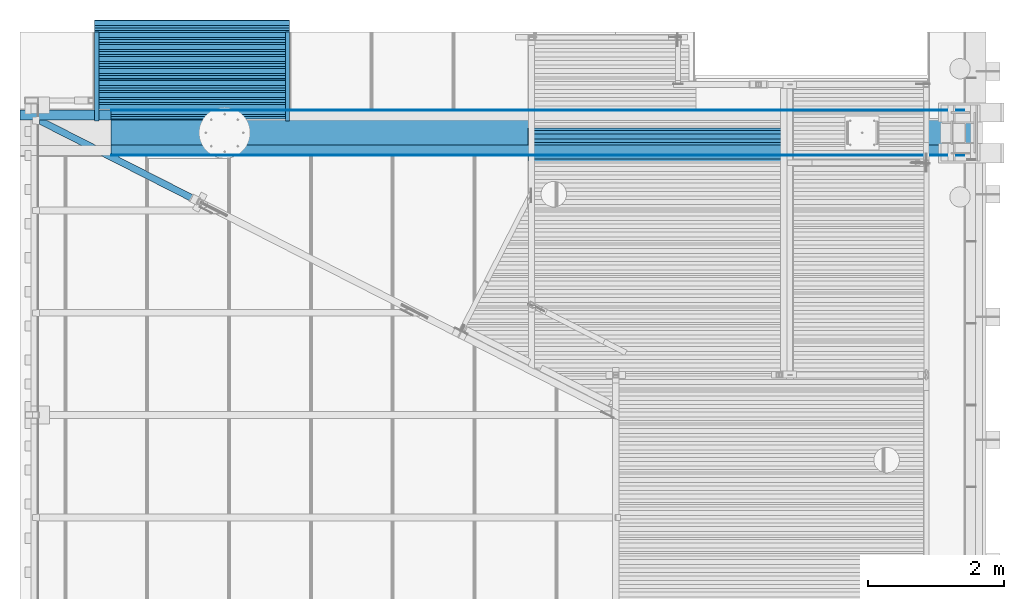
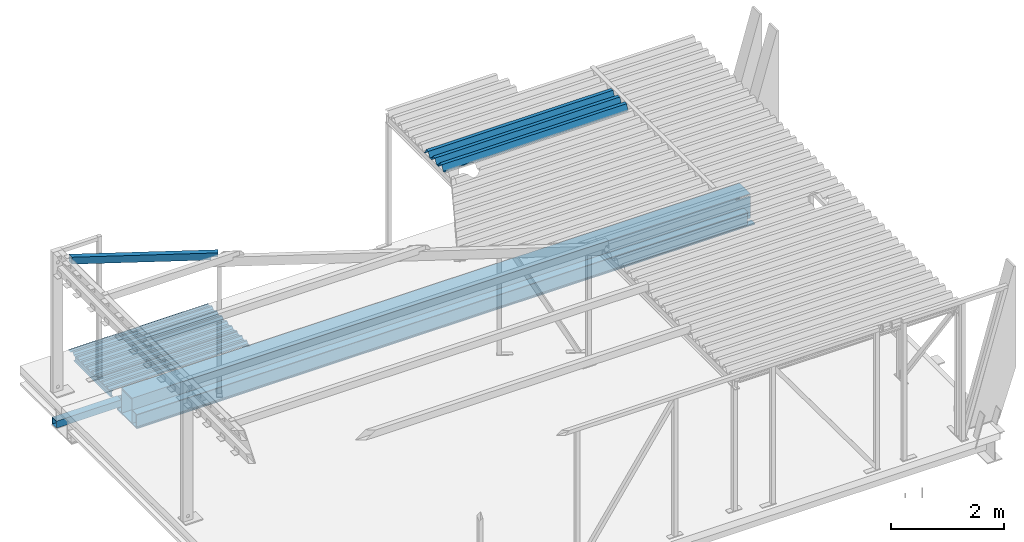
# One storey, part 12 of 30: 11 beams.
"""IFC2X3 building model written with IfcOpenShell, lengths in millimetres."""

from ifc_helpers import new_model, entity, si_unit, converted_unit, derived_unit, direction, frame, origin_with_axes, place, context, subcontext, project, spatial, faceted_brep, material, type_object, element, save


model = new_model("IFC2X3")

# Units and contexts
model_context = context("Model", 3, precision=0.01, world=frame((0.0, 4.29681676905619e-09, 0.0)), true_north=direction((4.01073788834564e-13, 1.0)))
plan_context = context("Plan", 3, precision=0.01, world=frame((0.0, 4.29681676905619e-09, 0.0)), true_north=direction((4.01073788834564e-13, 1.0)))
body_context = subcontext(model_context, "Body", "Model", "MODEL_VIEW")
ifc_project = project(units=[converted_unit("PLANEANGLEUNIT", "DEGREE", entity("IfcPositiveLengthMeasure", 0.0174532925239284), si_unit("PLANEANGLEUNIT", "RADIAN"), dimensions=[0, 0, 0, 0, 0, 0, 0]), si_unit("AREAUNIT", "SQUARE_METRE"), si_unit("LENGTHUNIT", "METRE", prefix="MILLI"), si_unit("MASSUNIT", "GRAM", prefix="KILO"), si_unit("POWERUNIT", "WATT"), si_unit("PRESSUREUNIT", "PASCAL"), si_unit("FORCEUNIT", "NEWTON", prefix="KILO"), si_unit("ELECTRICVOLTAGEUNIT", "VOLT"), si_unit("ELECTRICCURRENTUNIT", "AMPERE"), si_unit("THERMODYNAMICTEMPERATUREUNIT", "DEGREE_CELSIUS"), si_unit("TIMEUNIT", "SECOND"), si_unit("VOLUMEUNIT", "CUBIC_METRE"), derived_unit("LINEARVELOCITYUNIT", [(si_unit("LENGTHUNIT", "METRE"), 1), (si_unit("TIMEUNIT", "SECOND"), -1)]), derived_unit("VOLUMETRICFLOWRATEUNIT", [(si_unit("VOLUMEUNIT", "CUBIC_METRE"), 1), (si_unit("TIMEUNIT", "SECOND"), -1)]), derived_unit("THERMALTRANSMITTANCEUNIT", [(si_unit("POWERUNIT", "WATT"), 1), (si_unit("THERMODYNAMICTEMPERATUREUNIT", "KELVIN"), -1), (si_unit("AREAUNIT", "SQUARE_METRE"), -1)]), derived_unit("SOUNDPRESSUREUNIT", [(si_unit("PRESSUREUNIT", "PASCAL"), 1)])], contexts=[model_context, plan_context])

# Site, building, storey
site_placement = place(None, frame((0.0, -4.29681676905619e-09, 0.0), z_axis=(0.0, 0.0, 1.0), x_axis=(1.0, 0.0, 0.0)))
site = spatial("IfcSite", under=ifc_project, at=site_placement, Name="Gardermoen", CompositionType="ELEMENT")
building_placement = place(site_placement, frame((0.0, 4.29681676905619e-09, 0.0), z_axis=(0.0, 0.0, 1.0), x_axis=(1.0, 0.0, 0.0)))
building = spatial("IfcBuilding", under=site, at=building_placement, Name="TI", CompositionType="ELEMENT")
storey_placement = place(building_placement, origin_with_axes())
storey = spatial("IfcBuildingStorey", under=building, at=storey_placement, Name="F", CompositionType="ELEMENT", Elevation=0.0)

# Beams
ifc_material_1 = material(Name="STEEL/S355J2H")
beam_type_1 = type_object("IfcBeamType", Name="PLANNJA111", PredefinedType="NOTDEFINED")
beam_1_placement = place(storey_placement, frame((605452.91043944, 697707.497611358, 213755.499847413), z_axis=(0.0, 0.0, 1.0), x_axis=(1.0, 0.0, 0.0)))
element("IfcBeam", 1, at=beam_1_placement, inside=storey, type_object=beam_type_1, material=ifc_material_1, Name="STÅLBJELKE", ObjectType="PLANNJA111", context=body_context, shape_type="Brep", body=[
    faceted_brep([(-7.79982656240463e-09, 360.000000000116, -54.75), (-7.21774995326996e-09, 328.133911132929, -54.75), (3786.73202978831, 328.13391127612, -54.7500000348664), (3786.73202978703, 360.000000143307, -54.7500000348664), (-2.44472175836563e-09, 276.000000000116, 55.75), (3786.73202979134, 276.000000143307, 55.7499999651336), (-1.28056854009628e-09, 204.000000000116, 55.75), (3786.73202979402, 204.000000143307, 55.7499999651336), (-4.42378222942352e-09, 151.866088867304, -54.75), (3786.73202979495, 151.866089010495, -54.7500000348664), (-3.37604433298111e-09, 88.1339111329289, -54.75), (3786.73202979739, 88.1339112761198, -54.7500000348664), (1.39698386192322e-09, 36.0000000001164, 55.75), (3786.73202980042, 36.0000001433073, 55.7499999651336), (2.56113708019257e-09, -35.9999999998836, 55.75), (3786.7320298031, -35.9999998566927, 55.7499999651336), (-5.82076609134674e-10, -88.1339111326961, -54.75), (3786.73202980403, -88.1339109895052, -54.7500000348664), (4.65661287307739e-10, -151.866088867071, -54.75), (3786.73202980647, -151.86608872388, -54.7500000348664), (5.23868948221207e-09, -203.999999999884, 55.75), (3786.7320298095, -203.999999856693, 55.7499999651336), (6.40284270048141e-09, -275.999999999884, 55.75), (3786.73202981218, -275.999999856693, 55.7499999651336), (3.25962901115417e-09, -328.133911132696, -54.75), (3786.73202981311, -328.133910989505, -54.7500000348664), (3.72529029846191e-09, -359.999999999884, -54.75), (3786.73202981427, -359.999999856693, -54.7500000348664), (3.72529029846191e-09, -359.999999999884, -55.75), (3786.73202981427, -359.999999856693, -55.7500000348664), (3.14321368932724e-09, -327.499999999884, -55.75), (3786.73202981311, -327.499999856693, -55.7500000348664), (6.40284270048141e-09, -275.366088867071, 54.75), (3786.73202981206, -275.36608872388, 54.7499999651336), (5.23868948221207e-09, -204.633911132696, 54.75), (3786.73202980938, -204.633910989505, 54.7499999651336), (3.49245965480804e-10, -152.499999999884, -55.75), (3786.73202980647, -152.499999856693, -55.7500000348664), (-6.98491930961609e-10, -87.4999999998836, -55.75), (3786.73202980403, -87.4999998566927, -55.7500000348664), (2.56113708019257e-09, -35.3660888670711, 54.75), (3786.73202980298, -35.3660887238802, 54.7499999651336), (1.39698386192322e-09, 35.3660888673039, 54.75), (3786.7320298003, 35.3660890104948, 54.7499999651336), (-3.49245965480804e-09, 87.5000000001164, -55.75), (3786.73202979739, 87.5000001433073, -55.7500000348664), (-4.54019755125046e-09, 152.500000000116, -55.75), (3786.73202979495, 152.500000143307, -55.7500000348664), (-1.28056854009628e-09, 204.633911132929, 54.75), (3786.7320297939, 204.63391127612, 54.7499999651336), (-2.44472175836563e-09, 275.366088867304, 54.75), (3786.73202979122, 275.366089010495, 54.7499999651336), (-7.33416527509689e-09, 327.500000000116, -55.75), (3786.73202978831, 327.500000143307, -55.7500000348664), (-7.79982656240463e-09, 360.000000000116, -55.75), (3786.73202978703, 360.000000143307, -55.7500000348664)], [[[0, 1, 2, 3]], [[1, 4, 5, 2]], [[4, 6, 7, 5]], [[6, 8, 9, 7]], [[8, 10, 11, 9]], [[10, 12, 13, 11]], [[12, 14, 15, 13]], [[14, 16, 17, 15]], [[16, 18, 19, 17]], [[18, 20, 21, 19]], [[20, 22, 23, 21]], [[22, 24, 25, 23]], [[24, 26, 27, 25]], [[26, 28, 29, 27]], [[28, 30, 31, 29]], [[30, 32, 33, 31]], [[32, 34, 35, 33]], [[34, 36, 37, 35]], [[36, 38, 39, 37]], [[38, 40, 41, 39]], [[40, 42, 43, 41]], [[42, 44, 45, 43]], [[44, 46, 47, 45]], [[46, 48, 49, 47]], [[48, 50, 51, 49]], [[50, 52, 53, 51]], [[52, 54, 55, 53]], [[54, 0, 3, 55]], [[5, 7, 9, 11, 13, 15, 17, 19, 21, 23, 25, 27, 29, 31, 33, 35, 37, 39, 41, 43, 45, 47, 49, 51, 53, 55, 3, 2]], [[54, 52, 50, 48, 46, 44, 42, 40, 38, 36, 34, 32, 30, 28, 26, 24, 22, 20, 18, 16, 14, 12, 10, 8, 6, 4, 1, 0]]]),
])
beam_type_2 = type_object("IfcBeamType", Name="IPE120", PredefinedType="NOTDEFINED")
for number, where, z_axis, x_axis in (
    (2, (599126.996761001, 700525.000051, 210620.0), (0.0, 0.0, 1.0), (0.0, -1.0, 0.0)),
    (3, (601923.004234, 700525.000051, 210620.0), (0.0, 0.0, 1.0), (0.0, -1.0, 0.0)),
):
    element("IfcBeam", number, at=place(storey_placement, frame(where, z_axis=z_axis, x_axis=x_axis)), inside=storey, type_object=beam_type_2, Name="STÅLBJELKE", ObjectType="IPE120", context=body_context, shape_type="Brep", body=[
        faceted_brep([(1049.50005100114, 32.0000000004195, -53.6999998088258), (1049.50005100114, 32.0000000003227, -59.9999999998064), (2354.99567600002, 32.0, -60.0), (2354.99567600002, 32.0, -53.6999998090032), (1049.50005100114, 2.20000004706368, -53.6999998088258), (2354.99567600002, 2.20000004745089, -53.6999998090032), (1049.50005100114, 2.20000004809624, 53.6999998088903), (2354.99567600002, 2.20000004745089, 53.6999998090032), (1049.50005100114, 32.0000000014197, 53.6999998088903), (2354.99567600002, 32.0, 53.6999998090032), (1049.50005100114, 32.0000000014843, 59.9999999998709), (2354.99567600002, 32.0, 60.0), (1049.50005100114, -32.0000000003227, 59.9999999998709), (2354.99567600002, -32.0, 60.0), (1049.50005100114, -32.0000000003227, 53.6999998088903), (2354.99567600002, -32.0, 53.6999998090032), (1049.50005100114, -2.20000004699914, 53.6999998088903), (2354.99567600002, -2.20000004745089, 53.6999998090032), (1049.50005100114, -2.20000004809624, -53.6999998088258), (2354.99567600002, -2.20000004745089, -53.6999998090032), (1049.50005100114, -32.0000000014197, -53.6999998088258), (2354.99567600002, -32.0, -53.6999998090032), (1049.50005100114, -32.000000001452, -59.9999999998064), (2354.99567600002, -32.0, -60.0)], [[[0, 1, 2, 3]], [[4, 0, 3, 5]], [[6, 4, 5, 7]], [[8, 6, 7, 9]], [[10, 8, 9, 11]], [[12, 10, 11, 13]], [[14, 12, 13, 15]], [[16, 14, 15, 17]], [[18, 16, 17, 19]], [[20, 18, 19, 21]], [[22, 20, 21, 23]], [[1, 22, 23, 2]], [[3, 2, 23, 21, 19, 17, 15, 13, 11, 9, 7, 5]], [[4, 6, 8, 10, 12, 14, 16, 18, 20, 22, 1, 0]]], orient=[[False], [False], [False], [False], [False], [False], [False], [False], [False], [False], [False], [False], [False], [False]]),
    ])
beam_type_3 = type_object("IfcBeamType", Name="RHS150*100*6.3", PredefinedType="NOTDEFINED")
beam_2_placement = place(storey_placement, frame((600620.552338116, 696991.965399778, 213824.997734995), z_axis=(7.20973094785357e-07, -3.66986247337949e-07, 0.999999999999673), x_axis=(-0.891006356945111, 0.45399082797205, 8.09000000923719e-07)))
element("IfcBeam", 4, at=beam_2_placement, inside=storey, type_object=beam_type_3, material=ifc_material_1, Name="STÅLBJELKE", ObjectType="RHS150*100*6.3", context=body_context, shape_type="Brep", body=[
    faceted_brep([(1.68802216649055e-09, 43.6999998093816, -15.000354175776), (2.03726813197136e-09, 50.0000000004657, -15.0004052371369), (128.612457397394, 49.9999999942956, -15.000509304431), (128.612395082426, 43.699999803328, -15.0004582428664), (128.611468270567, -50.0000000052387, -14.9996988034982), (128.611530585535, -43.699999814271, -14.9997498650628), (128.611487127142, -43.6999998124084, -68.6999998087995), (128.612351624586, 43.6999998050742, -68.699999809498), (128.612408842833, 49.9999999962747, -75.000000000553), (128.611419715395, -50.0000000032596, -74.9999999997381), (-2.82307155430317e-09, -49.9999999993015, -14.9995947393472), (-2.5902409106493e-09, -43.6999998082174, -14.9996458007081), (2596.90085874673, 49.9999998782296, -75.0000000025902), (2647.85345123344, -50.0000001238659, -75.0000000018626), (0.0, 50.0, 75.0), (2596.90098012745, 49.9999998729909, 74.9999999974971), (0.0, -50.0, 75.0), (2647.85357261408, -50.0000001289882, 74.9999999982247), (2600.1108772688, 43.6999996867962, -68.6999998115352), (2644.64344290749, -43.6999999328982, -68.699999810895), (2644.64355409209, -43.6999999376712, 68.6999998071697), (2600.11098845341, 43.6999996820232, 68.6999998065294), (1.45519152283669e-10, -43.6999998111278, 68.6999998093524), (4.45288605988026e-09, 43.6999998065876, 68.6999998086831)], [[[0, 1, 2, 3]], [[4, 5, 6, 7, 3, 2, 8, 9]], [[10, 11, 5, 4]], [[12, 13, 9, 8]], [[14, 15, 12, 8, 2, 1]], [[14, 16, 17, 15]], [[12, 15, 17, 13], [18, 19, 20, 21]], [[22, 23, 21, 20]], [[18, 21, 23, 0, 3, 7]], [[19, 18, 7, 6]], [[22, 20, 19, 6, 5, 11]], [[16, 14, 1, 0, 23, 22, 11, 10]], [[13, 17, 16, 10, 4, 9]]]),
])
ifc_material_2 = material(Name="STEEL/S355")
beam_type_4 = type_object("IfcBeamType", Name="PLANNJA45", PredefinedType="NOTDEFINED")
beam_3_placement = place(storey_placement, frame((601955.004234, 698201.007299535, 210701.8), z_axis=(0.0, 0.0, 1.0), x_axis=(-0.999999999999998, 5.80000057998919e-08, 0.0)))
element("IfcBeam", 5, at=beam_3_placement, inside=storey, type_object=beam_type_4, material=ifc_material_2, Name="STÅLBJELKE", ObjectType="PLANNJA45", context=body_context, shape_type="Brep", body=[
    faceted_brep([(1.16415321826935e-09, -68.494926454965, 20.7999992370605), (5.82076609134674e-10, -36.0000000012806, -21.7999992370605), (2860.00747299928, -36.0, -21.7999992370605), (2860.00747299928, -68.4949264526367, 20.7999992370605), (1.86264514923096e-09, -107.505073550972, 20.7999992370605), (2860.00747299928, -107.505073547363, 20.7999992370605), (2.44472175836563e-09, -140.000000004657, -21.7999992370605), (2860.00747299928, -140.0, -21.7999992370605), (3.78349795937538e-09, -212.000000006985, -21.7999992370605), (2860.00747299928, -212.0, -21.7999992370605), (4.36557456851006e-09, -244.494918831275, 20.7999992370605), (2860.00747299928, -244.494918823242, 20.7999992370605), (5.06406649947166e-09, -283.505065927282, 20.7999992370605), (2860.00747299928, -283.505065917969, 20.7999992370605), (5.64614310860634e-09, -316.000000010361, -21.7999992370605), (2860.00747299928, -316.0, -21.7999992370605), (6.98491930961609e-09, -389.257720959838, -21.7999992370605), (2860.00747299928, -389.257720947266, -21.7999992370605), (7.56699591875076e-09, -420.989837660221, 19.7999992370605), (2860.00747299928, -420.989837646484, 19.7999992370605), (8.26548784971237e-09, -459.033081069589, 19.7999992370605), (2860.00747299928, -459.033081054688, 19.7999992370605), (8.84756445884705e-09, -492.000000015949, -21.7999992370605), (2860.00747299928, -492.0, -21.7999992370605), (1.01863406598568e-08, -564.000000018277, -21.7999992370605), (2860.00747299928, -564.0, -21.7999992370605), (1.03027559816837e-08, -573.316406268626, -10.0439338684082), (2860.00747299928, -573.31640625, -10.0439338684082), (1.03027559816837e-08, -572.53265382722, -9.42284202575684), (2860.00747299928, -572.532653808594, -9.42284202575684), (1.01863406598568e-08, -563.516540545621, -20.7999992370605), (2860.00747299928, -563.516540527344, -20.7999992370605), (8.84756445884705e-09, -492.483459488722, -20.7999992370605), (2860.00747299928, -492.483459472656, -20.7999992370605), (8.26548784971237e-09, -459.516540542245, 20.7999992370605), (2860.00747299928, -459.516540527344, 20.7999992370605), (7.56699591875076e-09, -420.494934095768, 20.7999992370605), (2860.00747299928, -420.494934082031, 20.7999992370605), (6.98491930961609e-09, -388.762786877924, -20.7999992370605), (2860.00747299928, -388.762786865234, -20.7999992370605), (5.64614310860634e-09, -316.494934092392, -20.7999992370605), (2860.00747299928, -316.494934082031, -20.7999992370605), (5.06406649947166e-09, -284.000000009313, 21.7999992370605), (2860.00747299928, -284.0, 21.7999992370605), (4.36557456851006e-09, -244.000000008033, 21.7999992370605), (2860.00747299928, -244.0, 21.7999992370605), (3.78349795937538e-09, -211.505081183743, -20.7999992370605), (2860.00747299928, -211.505081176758, -20.7999992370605), (2.5029294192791e-09, -140.494918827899, -20.7999992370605), (2860.00747299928, -140.494918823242, -20.7999992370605), (1.86264514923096e-09, -108.000000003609, 21.7999992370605), (2860.00747299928, -108.0, 21.7999992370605), (1.16415321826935e-09, -68.0000000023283, 21.7999992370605), (2860.00747299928, -68.0, 21.7999992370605), (5.82076609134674e-10, -35.5050735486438, -20.7999992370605), (2860.00747299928, -35.5050735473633, -20.7999992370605), (2860.00747299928, 1.00729953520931, -20.7999992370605), (0.0, 1.00729953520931, -20.7999992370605), (0.0, 1.00729953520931, -21.7999992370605), (2860.00747299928, 1.00729953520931, -21.7999992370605)], [[[0, 1, 2, 3]], [[4, 0, 3, 5]], [[6, 4, 5, 7]], [[8, 6, 7, 9]], [[10, 8, 9, 11]], [[12, 10, 11, 13]], [[14, 12, 13, 15]], [[16, 14, 15, 17]], [[18, 16, 17, 19]], [[20, 18, 19, 21]], [[22, 20, 21, 23]], [[24, 22, 23, 25]], [[26, 24, 25, 27]], [[28, 26, 27, 29]], [[30, 28, 29, 31]], [[32, 30, 31, 33]], [[34, 32, 33, 35]], [[36, 34, 35, 37]], [[38, 36, 37, 39]], [[40, 38, 39, 41]], [[42, 40, 41, 43]], [[44, 42, 43, 45]], [[46, 44, 45, 47]], [[48, 46, 47, 49]], [[50, 48, 49, 51]], [[52, 50, 51, 53]], [[54, 52, 53, 55]], [[54, 55, 56, 57]], [[1, 0, 4, 6, 8, 10, 12, 14, 16, 18, 20, 22, 24, 26, 28, 30, 32, 34, 36, 38, 40, 42, 44, 46, 48, 50, 52, 54, 57, 58]], [[2, 1, 58, 59]], [[55, 53, 51, 49, 47, 45, 43, 41, 39, 37, 35, 33, 31, 29, 27, 25, 23, 21, 19, 17, 15, 13, 11, 9, 7, 5, 3, 2, 59, 56]], [[58, 57, 56, 59]]]),
])
beam_4_placement = place(storey_placement, frame((601955.006335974, 699081.003675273, 210701.8), z_axis=(0.0, 0.0, 1.0), x_axis=(-0.999999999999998, 5.80000057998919e-08, 0.0)))
element("IfcBeam", 6, at=beam_4_placement, inside=storey, type_object=beam_type_4, material=ifc_material_2, Name="STÅLBJELKE", ObjectType="PLANNJA45", context=body_context, shape_type="Brep", body=[
    faceted_brep([(-8.55652615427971e-09, 469.316375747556, 10.0439338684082), (-8.44011083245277e-09, 460.000000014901, 21.7999992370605), (2860.00747299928, 460.0, 21.7999992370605), (2860.00747299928, 469.316375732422, 10.0439338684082), (-7.6834112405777e-09, 420.000000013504, 21.7999992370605), (2860.00747299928, 420.0, 21.7999992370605), (-7.10133463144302e-09, 387.033081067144, -19.7999992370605), (2860.00747299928, 387.033081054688, -19.7999992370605), (-5.82076609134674e-09, 316.966918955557, -19.7999992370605), (2860.00747299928, 316.966918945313, -19.7999992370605), (-5.23868948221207e-09, 284.000000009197, 21.7999992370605), (2860.00747299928, 284.0, 21.7999992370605), (-4.48198989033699e-09, 244.000000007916, 21.7999992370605), (2860.00747299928, 244.0, 21.7999992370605), (-3.89991328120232e-09, 211.50508118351, -20.7999992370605), (2860.00747299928, 211.505081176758, -20.7999992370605), (-2.61934474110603e-09, 140.494918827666, -20.7999992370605), (2860.00747299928, 140.494918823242, -20.7999992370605), (-2.03726813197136e-09, 108.000000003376, 21.7999992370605), (2860.00747299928, 108.0, 21.7999992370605), (-1.28056854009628e-09, 68.0000000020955, 21.7999992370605), (2860.00747299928, 68.0, 21.7999992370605), (-6.98491930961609e-10, 35.505073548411, -20.7999992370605), (2860.00747299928, 35.5050735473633, -20.7999992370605), (5.82076609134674e-10, -35.5050735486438, -20.7999992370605), (2860.00747299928, -35.5050735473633, -20.7999992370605), (1.16415321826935e-09, -68.0000000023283, 21.7999992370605), (2860.00747299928, -68.0, 21.7999992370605), (1.86264514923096e-09, -108.000000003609, 21.7999992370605), (2860.00747299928, -108.0, 21.7999992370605), (2.5029294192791e-09, -140.494918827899, -20.7999992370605), (2860.00747299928, -140.494918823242, -20.7999992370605), (3.78349795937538e-09, -211.505081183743, -20.7999992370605), (2860.00747299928, -211.505081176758, -20.7999992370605), (4.36557456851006e-09, -244.000000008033, 21.7999992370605), (2860.00747299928, -244.0, 21.7999992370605), (5.06406649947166e-09, -284.000000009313, 21.7999992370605), (2860.00747299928, -284.0, 21.7999992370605), (5.64614310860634e-09, -316.494934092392, -20.7999992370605), (2860.00747299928, -316.494934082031, -20.7999992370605), (6.98491930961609e-09, -388.762786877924, -20.7999992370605), (2860.00747299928, -388.762786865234, -20.7999992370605), (7.56699591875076e-09, -420.494934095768, 20.7999992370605), (2860.00747299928, -420.494934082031, 20.7999992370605), (8.26548784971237e-09, -459.516540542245, 20.7999992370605), (2860.00747299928, -459.516540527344, 20.7999992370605), (8.84756445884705e-09, -492.483459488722, -20.7999992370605), (2860.00747299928, -492.483459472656, -20.7999992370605), (1.01863406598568e-08, -563.516540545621, -20.7999992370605), (2860.00747299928, -563.516540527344, -20.7999992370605), (1.03027559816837e-08, -572.53265382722, -9.42284202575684), (2860.00747299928, -572.532653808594, -9.42284202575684), (1.03027559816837e-08, -573.316406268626, -10.0439338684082), (2860.00747299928, -573.31640625, -10.0439338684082), (1.01863406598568e-08, -564.000000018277, -21.7999992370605), (2860.00747299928, -564.0, -21.7999992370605), (8.84756445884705e-09, -492.000000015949, -21.7999992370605), (2860.00747299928, -492.0, -21.7999992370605), (8.26548784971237e-09, -459.033081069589, 19.7999992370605), (2860.00747299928, -459.033081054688, 19.7999992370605), (7.56699591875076e-09, -420.989837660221, 19.7999992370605), (2860.00747299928, -420.989837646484, 19.7999992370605), (6.98491930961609e-09, -389.257720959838, -21.7999992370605), (2860.00747299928, -389.257720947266, -21.7999992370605), (5.64614310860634e-09, -316.000000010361, -21.7999992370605), (2860.00747299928, -316.0, -21.7999992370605), (5.06406649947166e-09, -283.505065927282, 20.7999992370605), (2860.00747299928, -283.505065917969, 20.7999992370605), (4.36557456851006e-09, -244.494918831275, 20.7999992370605), (2860.00747299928, -244.494918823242, 20.7999992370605), (3.78349795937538e-09, -212.000000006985, -21.7999992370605), (2860.00747299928, -212.0, -21.7999992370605), (2.44472175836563e-09, -140.000000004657, -21.7999992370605), (2860.00747299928, -140.0, -21.7999992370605), (1.86264514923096e-09, -107.505073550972, 20.7999992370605), (2860.00747299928, -107.505073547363, 20.7999992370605), (1.16415321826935e-09, -68.494926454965, 20.7999992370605), (2860.00747299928, -68.4949264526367, 20.7999992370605), (5.82076609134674e-10, -36.0000000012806, -21.7999992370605), (2860.00747299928, -36.0, -21.7999992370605), (-6.98491930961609e-10, 36.0000000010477, -21.7999992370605), (2860.00747299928, 36.0, -21.7999992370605), (-1.33877620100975e-09, 68.4949264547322, 20.7999992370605), (2860.00747299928, 68.4949264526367, 20.7999992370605), (-2.03726813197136e-09, 107.505073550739, 20.7999992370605), (2860.00747299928, 107.505073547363, 20.7999992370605), (-2.61934474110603e-09, 140.000000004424, -21.7999992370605), (2860.00747299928, 140.0, -21.7999992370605), (-3.89991328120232e-09, 212.000000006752, -21.7999992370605), (2860.00747299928, 212.0, -21.7999992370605), (-4.48198989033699e-09, 244.494918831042, 20.7999992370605), (2860.00747299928, 244.494918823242, 20.7999992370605), (-5.23868948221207e-09, 283.516540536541, 20.7999992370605), (2860.00747299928, 283.516540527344, 20.7999992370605), (-5.76255843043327e-09, 316.483459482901, -20.7999992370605), (2860.00747299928, 316.483459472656, -20.7999992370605), (-7.10133463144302e-09, 387.5165405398, -20.7999992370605), (2860.00747299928, 387.516540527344, -20.7999992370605), (-7.6834112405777e-09, 420.483459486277, 20.7999992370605), (2860.00747299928, 420.483459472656, 20.7999992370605), (-8.44011083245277e-09, 459.516540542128, 20.7999992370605), (2860.00747299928, 459.516540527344, 20.7999992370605), (-8.55652615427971e-09, 468.532653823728, 9.42284202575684), (2860.00747299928, 468.532653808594, 9.42284202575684)], [[[0, 1, 2, 3]], [[1, 4, 5, 2]], [[4, 6, 7, 5]], [[6, 8, 9, 7]], [[8, 10, 11, 9]], [[10, 12, 13, 11]], [[12, 14, 15, 13]], [[14, 16, 17, 15]], [[16, 18, 19, 17]], [[18, 20, 21, 19]], [[20, 22, 23, 21]], [[22, 24, 25, 23]], [[24, 26, 27, 25]], [[26, 28, 29, 27]], [[28, 30, 31, 29]], [[30, 32, 33, 31]], [[32, 34, 35, 33]], [[34, 36, 37, 35]], [[36, 38, 39, 37]], [[38, 40, 41, 39]], [[40, 42, 43, 41]], [[42, 44, 45, 43]], [[44, 46, 47, 45]], [[46, 48, 49, 47]], [[48, 50, 51, 49]], [[50, 52, 53, 51]], [[52, 54, 55, 53]], [[54, 56, 57, 55]], [[56, 58, 59, 57]], [[58, 60, 61, 59]], [[60, 62, 63, 61]], [[62, 64, 65, 63]], [[64, 66, 67, 65]], [[66, 68, 69, 67]], [[68, 70, 71, 69]], [[70, 72, 73, 71]], [[72, 74, 75, 73]], [[74, 76, 77, 75]], [[76, 78, 79, 77]], [[78, 80, 81, 79]], [[80, 82, 83, 81]], [[82, 84, 85, 83]], [[84, 86, 87, 85]], [[86, 88, 89, 87]], [[88, 90, 91, 89]], [[90, 92, 93, 91]], [[92, 94, 95, 93]], [[94, 96, 97, 95]], [[96, 98, 99, 97]], [[98, 100, 101, 99]], [[100, 102, 103, 101]], [[102, 0, 3, 103]], [[5, 7, 9, 11, 13, 15, 17, 19, 21, 23, 25, 27, 29, 31, 33, 35, 37, 39, 41, 43, 45, 47, 49, 51, 53, 55, 57, 59, 61, 63, 65, 67, 69, 71, 73, 75, 77, 79, 81, 83, 85, 87, 89, 91, 93, 95, 97, 99, 101, 103, 3, 2]], [[102, 100, 98, 96, 94, 92, 90, 88, 86, 84, 82, 80, 78, 76, 74, 72, 70, 68, 66, 64, 62, 60, 58, 56, 54, 52, 50, 48, 46, 44, 42, 40, 38, 36, 34, 32, 30, 28, 26, 24, 22, 20, 18, 16, 14, 12, 10, 8, 6, 4, 1, 0]]]),
])
beam_type_5 = type_object("IfcBeamType", Name="RHS150*5", PredefinedType="NOTDEFINED")
beam_5_placement = place(storey_placement, frame((584664.999766, 698259.995625, 210340.0), z_axis=(0.0, -1.0, 0.0), x_axis=(1.0, 0.0, 0.0)))
element("IfcBeam", 7, at=beam_5_placement, inside=storey, type_object=beam_type_5, Name="STÅLBJELKE", ObjectType="RHS150*5", context=body_context, shape_type="Brep", body=[
    faceted_brep([(13335.0002339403, -70.0, -70.0), (13335.0002339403, 70.0, -70.0), (14670.0, 70.0, -70.0), (14670.0, -70.0, -70.0), (13335.0002339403, -70.0, 70.0), (14670.0, -70.0, 70.0), (13335.0002339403, 70.0, 70.0), (14670.0, 70.0, 70.0), (13335.0002339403, 75.0, 75.0), (13335.0002339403, 75.0, -75.0), (14670.0, 75.0, -75.0), (14670.0, 75.0, 75.0), (13335.0002339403, -75.0, 75.0), (14670.0, -75.0, 75.0), (13335.0002339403, -75.0, -75.0), (14670.0, -75.0, -75.0)], [[[0, 1, 2, 3]], [[4, 0, 3, 5]], [[6, 4, 5, 7]], [[1, 6, 7, 2]], [[8, 9, 10, 11]], [[12, 8, 11, 13]], [[14, 12, 13, 15]], [[9, 14, 15, 10]], [[11, 10, 15, 13], [3, 2, 7, 5]], [[12, 14, 9, 8], [4, 6, 1, 0]]], orient=[[False], [False], [False], [False], [False], [False], [False], [False], [False, False], [False, False]]),
])
beam_type_6 = type_object("IfcBeamType", Name="PL170*10", PredefinedType="NOTDEFINED")
beam_6_placement = place(storey_placement, frame((611850.000234, 697735.025625, 210410.0), z_axis=(-5.80000057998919e-08, -0.999999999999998, 0.0), x_axis=(-0.999999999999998, 5.80000057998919e-08, 0.0)))
element("IfcBeam", 8, at=beam_6_placement, inside=storey, type_object=beam_type_6, material=ifc_material_2, Name="STÅLBJELKE", ObjectType="PL170*10", context=body_context, shape_type="Brep", body=[
    faceted_brep([(0.0, 5.0, -85.0), (0.0, 5.0, 85.0), (12515.08, 5.0, 85.0), (12515.08, 5.0, -85.0), (0.0, -5.0, 85.0), (12515.08, -5.0, 85.0), (0.0, -5.0, -85.0), (12515.08, -5.0, -85.0)], [[[0, 1, 2, 3]], [[1, 4, 5, 2]], [[4, 6, 7, 5]], [[6, 0, 3, 7]], [[5, 7, 3, 2]], [[6, 4, 1, 0]]]),
])
beam_type_7 = type_object("IfcBeamType", Name="PL265*10", PredefinedType="NOTDEFINED")
for number, where, z_axis, x_axis in (
    (9, (611850.000234, 698330.022371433, 210272.500038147), (0.0, 0.0, 1.0), (-0.999999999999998, 5.80000057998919e-08, 0.0)),
    (10, (611850.000234, 697670.022371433, 210272.500038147), (0.0, 0.0, 1.0), (-0.999999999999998, 5.80000057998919e-08, 0.0)),
):
    element("IfcBeam", number, at=place(storey_placement, frame(where, z_axis=z_axis, x_axis=x_axis)), inside=storey, type_object=beam_type_7, material=ifc_material_2, Name="STÅLBJELKE", ObjectType="PL265*10", context=body_context, shape_type="Brep", body=[
        faceted_brep([(0.0, 5.0, -132.5), (0.0, 5.0, 132.5), (12515.08, 5.0, 132.5), (12515.08, 5.0, -132.5), (0.0, -5.0, 132.5), (12515.08, -5.0, 132.5), (0.0, -5.0, -132.5), (12515.08, -5.0, -132.5)], [[[0, 1, 2, 3]], [[1, 4, 5, 2]], [[4, 6, 7, 5]], [[6, 0, 3, 7]], [[5, 7, 3, 2]], [[6, 4, 1, 0]]]),
    ])
beam_type_8 = type_object("IfcBeamType", Name="WQ545*10-35*360-25*700", PredefinedType="NOTDEFINED")
beam_7_placement = place(storey_placement, frame((612008.500234, 697999.995625, 210387.5), z_axis=(0.0, 0.0, 1.0), x_axis=(-0.999999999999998, 5.80000057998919e-08, 0.0)))
element("IfcBeam", 11, at=beam_7_placement, inside=storey, type_object=beam_type_8, material=ifc_material_2, Name="STÅLBJELKE", ObjectType="WQ545*10-35*360-25*700", context=body_context, shape_type="Brep", body=[
    faceted_brep([(313.060234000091, 180.0, 237.5), (313.060234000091, 190.0, 237.5), (15.0001721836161, 190.0, 237.5), (15.0001721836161, 180.0, 237.5), (313.060234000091, -190.0, 237.5), (313.060234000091, -180.0, 237.5), (15.0001721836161, -180.0, 237.5), (15.0001721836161, -190.0, 237.5), (313.060234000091, -190.0, 277.5), (313.060234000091, 190.0, 277.5), (313.060234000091, 180.0, 250.0), (313.060234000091, -180.0, 250.0), (15.0001721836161, -190.0, 277.5), (15.0001721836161, 190.0, 277.5), (313.060172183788, 190.0, -247.499999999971), (313.060172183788, 180.0, -247.499999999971), (15.0001721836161, 180.0, -247.499999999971), (15.0001721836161, 190.0, -247.499999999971), (12673.58, -190.0, 285.0), (12673.58, 190.0, 285.0), (15.0001721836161, 190.0, 285.0), (15.0001721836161, -190.0, 285.0), (313.060172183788, -227.508616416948, -260.0), (313.060172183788, -227.508616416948, -285.0), (15.0001721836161, -227.508616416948, -285.0), (15.0001721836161, -227.508616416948, -260.0), (313.060172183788, 227.491383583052, -285.0), (15.0001721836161, 227.491383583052, -285.0), (15.0001721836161, 350.0, -285.0), (12673.58, 350.0, -285.0), (12673.58, -350.0, -285.0), (15.0001721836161, -350.0, -285.0), (313.060172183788, 227.491383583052, -260.0), (15.0001721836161, 227.491383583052, -260.0), (313.060172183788, 190.0, -260.0), (12673.58, 190.0, -260.0), (12673.58, 350.0, -260.0), (15.0001721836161, 350.0, -260.0), (12673.58, -180.0, -260.0), (12673.58, 180.0, -260.0), (313.060172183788, 180.0, -260.0), (313.060172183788, -180.0, -260.0), (12673.58, -190.0, -260.0), (12673.58, -350.0, -260.0), (12673.58, -180.0, 250.0), (12673.58, 180.0, 250.0), (15.0001721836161, -350.0, -260.0), (313.060172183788, -190.0, -260.0), (313.060172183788, -190.0, -247.499999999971), (313.060172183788, -180.0, -247.499999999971), (15.0001721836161, -190.0, -247.499999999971), (15.0001721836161, -180.0, -247.499999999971)], [[[0, 1, 2, 3]], [[4, 5, 6, 7]], [[8, 9, 1, 0, 10, 11, 5, 4]], [[12, 13, 9, 8]], [[14, 15, 16, 17]], [[18, 19, 20, 21]], [[22, 23, 24, 25]], [[23, 26, 27, 28, 29, 30, 31, 24]], [[26, 32, 33, 27]], [[32, 34, 35, 36, 37, 33]], [[28, 27, 33, 37]], [[36, 29, 28, 37]], [[38, 39, 40, 41]], [[35, 19, 18, 42, 43, 30, 29, 36], [44, 45, 39, 38]], [[30, 43, 46, 31]], [[24, 31, 46, 25]], [[43, 42, 47, 22, 25, 46]], [[48, 49, 41, 40, 15, 14, 34, 32, 26, 23, 22, 47]], [[49, 48, 50, 51]], [[51, 50, 7, 6]], [[44, 38, 41, 49, 51, 6, 5, 11]], [[45, 44, 11, 10]], [[3, 16, 15, 40, 39, 45, 10, 0]], [[17, 16, 3, 2]], [[20, 19, 35, 34, 14, 17, 2, 1, 9, 13]], [[21, 20, 13, 12]], [[7, 50, 48, 47, 42, 18, 21, 12, 8, 4]]]),
])

save(model, "model.ifc")
